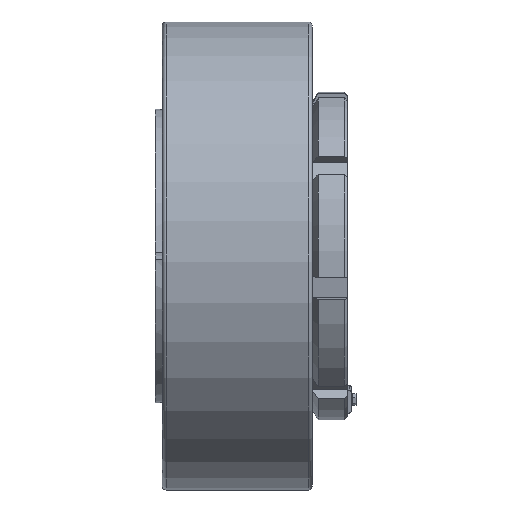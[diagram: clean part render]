
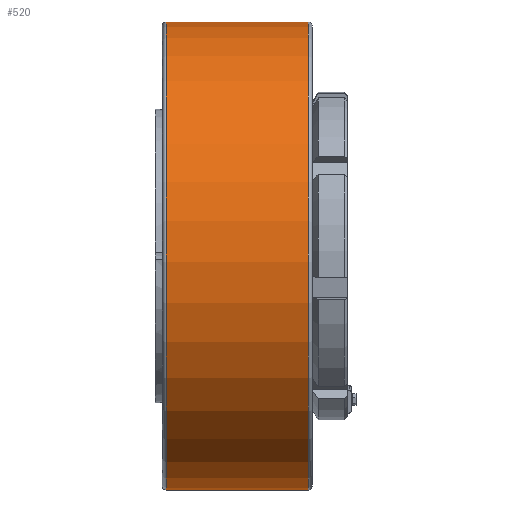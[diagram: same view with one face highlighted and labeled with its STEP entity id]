
A CAD part, front view. The second image highlights one B-rep face of the part: STEP entity #520.
In plain terms, the highlighted cylindrical face has radius 300 mm (diameter 600 mm), a full revolution.
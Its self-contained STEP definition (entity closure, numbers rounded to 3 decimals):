
#520 = ADVANCED_FACE( '', ( #1169, #1170 ), #1171, .T. );
#1169 = FACE_OUTER_BOUND( '', #1942, .T. );
#1170 = FACE_OUTER_BOUND( '', #1943, .T. );
#1171 = CYLINDRICAL_SURFACE( '', #1944, 300. );
#1942 = EDGE_LOOP( '', ( #4076 ) );
#1943 = EDGE_LOOP( '', ( #4077 ) );
#1944 = AXIS2_PLACEMENT_3D( '', #4078, #4079, #4080 );
#4076 = ORIENTED_EDGE( '', *, *, #5532, .T. );
#4077 = ORIENTED_EDGE( '', *, *, #5546, .F. );
#4078 = CARTESIAN_POINT( '', ( 0., 0., 0. ) );
#4079 = DIRECTION( '', ( -1., 0., 0. ) );
#4080 = DIRECTION( '', ( 0., 0., -1. ) );
#5532 = EDGE_CURVE( '', #6788, #6788, #6789, .T. );
#5546 = EDGE_CURVE( '', #6816, #6816, #6817, .T. );
#6788 = VERTEX_POINT( '', #8837 );
#6789 = CIRCLE( '', #8838, 300. );
#6816 = VERTEX_POINT( '', #8865 );
#6817 = CIRCLE( '', #8866, 300. );
#8837 = CARTESIAN_POINT( '', ( -241., 0., -300. ) );
#8838 = AXIS2_PLACEMENT_3D( '', #10392, #10393, #10394 );
#8865 = CARTESIAN_POINT( '', ( -59., 0., -300. ) );
#8866 = AXIS2_PLACEMENT_3D( '', #10434, #10435, #10436 );
#10392 = CARTESIAN_POINT( '', ( -241., 0., 0. ) );
#10393 = DIRECTION( '', ( 1., 0., 0. ) );
#10394 = DIRECTION( '', ( 0., 0., -1. ) );
#10434 = CARTESIAN_POINT( '', ( -59., 0., 0. ) );
#10435 = DIRECTION( '', ( 1., 0., 0. ) );
#10436 = DIRECTION( '', ( 0., 0., -1. ) );
